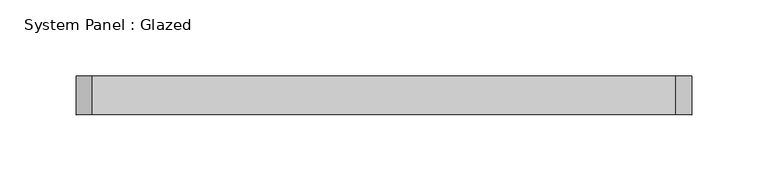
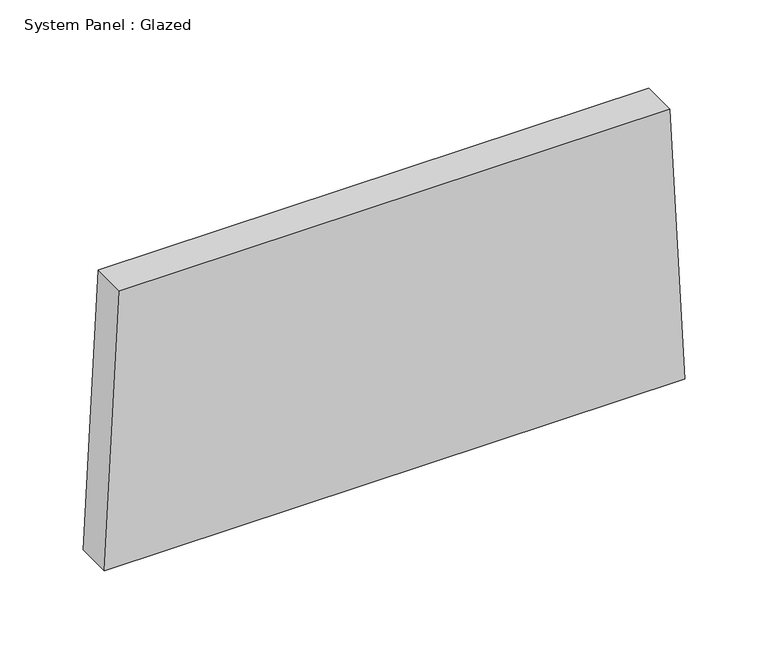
"""IFC4 building model written with IfcOpenShell, lengths in millimetres: plate geometry, System Panel : Glazed."""

import ifcopenshell
import ifcopenshell.guid

model = None  # the IFC model being written
_history = None  # IfcOwnerHistory: only IFC2X3 demands one
_inside = {}  # id of a spatial element -> (the spatial element, [elements in it])
_under = {}  # id of a project, library or spatial element -> (it, [spatial elements below it])
_declared = {}  # id of a project -> (the project, [libraries it declares])
_typed = {}  # id of a type object -> (the type object, [elements of that type])
_made_of = {}  # id of a material, layer set ... -> (it, [elements and type objects made of it])


def new_model(schema):
    """Start an empty IFC model of exactly this schema.

    Asked for "IFC4X3", IfcOpenShell would pick the latest addendum, in which some entities
    have other attributes; the version numbers below select the first issue.
    IFC2X3 requires an IfcOwnerHistory on every rooted entity: one is made here for all.
    """
    global model, _history
    if schema == "IFC4X3":
        model = ifcopenshell.file(schema_version=(4, 3, 0, 0))
    else:
        model = ifcopenshell.file(schema=schema)
    _inside.clear()
    _under.clear()
    _declared.clear()
    _typed.clear()
    _made_of.clear()
    _history = None
    if model.schema == "IFC2X3":
        org = make("IfcOrganization", Name="unknown")
        user = make(
            "IfcPersonAndOrganization",
            ThePerson=make("IfcPerson", FamilyName="unknown"),
            TheOrganization=org,
        )
        app = make(
            "IfcApplication",
            ApplicationDeveloper=org,
            Version="unknown",
            ApplicationFullName="unknown",
            ApplicationIdentifier="unknown",
        )
        _history = make(
            "IfcOwnerHistory",
            OwningUser=user,
            OwningApplication=app,
            ChangeAction="ADDED",
            CreationDate=0,
        )
    return model


def make(cls, **values):
    """One entity of the class cls with the attributes given. An attribute that is None is left unset."""
    return model.create_entity(
        cls, **{name: value for name, value in values.items() if value is not None}
    )


def rooted(cls, **values):
    """An entity with a GlobalId (a new one), such as an element, a storey or a relation."""
    return make(cls, GlobalId=ifcopenshell.guid.new(), OwnerHistory=_history, **values)


def si_unit(unit_type, name, prefix=None):
    """IfcSIUnit, for example si_unit("LENGTHUNIT", "METRE", prefix="MILLI")."""
    return make("IfcSIUnit", UnitType=unit_type, Prefix=prefix, Name=name)


def assignment(units):
    """IfcUnitAssignment: the units of a project."""
    return None if units is None else make("IfcUnitAssignment", Units=units)


def point(xyz):
    """IfcCartesianPoint."""
    return None if xyz is None else make("IfcCartesianPoint", Coordinates=xyz)


def direction(xyz):
    """IfcDirection."""
    return None if xyz is None else make("IfcDirection", DirectionRatios=xyz)


def frame(location, z_axis=None, x_axis=None):
    """IfcAxis2Placement3D, a coordinate frame: its origin and axes. An axis left out is left unset."""
    return make(
        "IfcAxis2Placement3D",
        Location=point(location),
        Axis=direction(z_axis),
        RefDirection=direction(x_axis),
    )


def origin():
    """The frame at (0, 0, 0) with its axes left unset."""
    return frame((0.0, 0.0, 0.0))


def place(relative_to, where):
    """IfcLocalPlacement: puts the frame where relative to a parent placement (None: the world)."""
    return make(
        "IfcLocalPlacement", PlacementRelTo=relative_to, RelativePlacement=where
    )


def context(
    kind, dimensions, precision=None, world=None, true_north=None, identifier=None
):
    """IfcGeometricRepresentationContext, for example the 3D "Model" context."""
    return make(
        "IfcGeometricRepresentationContext",
        ContextIdentifier=identifier,
        ContextType=kind,
        CoordinateSpaceDimension=dimensions,
        Precision=precision,
        WorldCoordinateSystem=world,
        TrueNorth=true_north,
    )


def project(units=None, contexts=None):
    """IfcProject with its units and contexts."""
    return rooted(
        "IfcProject",
        Name="project",
        RepresentationContexts=contexts,
        UnitsInContext=assignment(units),
    )


def spatial(cls, under=None, at=None, **own):
    """A site, building, storey or space (cls), placed at a placement, below another one or the project."""
    s = rooted(cls, ObjectPlacement=at, **own)
    if under is not None:
        _under.setdefault(under.id(), (under, []))[1].append(s)
    return s


def polyline(points):
    """IfcPolyline through the points."""
    return make("IfcPolyline", Points=[point(p) for p in points])


def outline(outer, holes=None, kind="AREA"):
    """IfcArbitraryClosedProfileDef: a profile drawn as a closed curve; with holes, ...WithVoids."""
    if holes is None:
        return make("IfcArbitraryClosedProfileDef", ProfileType=kind, OuterCurve=outer)
    return make(
        "IfcArbitraryProfileDefWithVoids",
        ProfileType=kind,
        OuterCurve=outer,
        InnerCurves=holes,
    )


def extrude(swept, where, along, depth):
    """IfcExtrudedAreaSolid: the profile swept, set in the frame where, extruded along a direction by depth."""
    return make(
        "IfcExtrudedAreaSolid",
        SweptArea=swept,
        Position=where,
        ExtrudedDirection=direction(along),
        Depth=depth,
    )


def shape(context_of_items, identifier, shape_type, items):
    """IfcShapeRepresentation: the items that make up one representation, for example the "Body"."""
    return make(
        "IfcShapeRepresentation",
        ContextOfItems=context_of_items,
        RepresentationIdentifier=identifier,
        RepresentationType=shape_type,
        Items=items,
    )


def source(mapping_origin, context_of_items, identifier, shape_type, items):
    """IfcRepresentationMap: a shape defined once, which mapped items show again and again."""
    return make(
        "IfcRepresentationMap",
        MappingOrigin=mapping_origin,
        MappedRepresentation=shape(context_of_items, identifier, shape_type, items),
    )


def transform(
    local_origin,
    x_axis=None,
    y_axis=None,
    z_axis=None,
    scale=None,
    scale2=None,
    scale3=None,
    uniform=True,
):
    """IfcCartesianTransformationOperator3D, or its non-uniform kind. x_axis, y_axis, z_axis: its Axis1, 2, 3."""
    if uniform:
        return make(
            "IfcCartesianTransformationOperator3D",
            Axis1=direction(x_axis),
            Axis2=direction(y_axis),
            LocalOrigin=point(local_origin),
            Scale=scale,
            Axis3=direction(z_axis),
        )
    return make(
        "IfcCartesianTransformationOperator3DnonUniform",
        Axis1=direction(x_axis),
        Axis2=direction(y_axis),
        LocalOrigin=point(local_origin),
        Scale=scale,
        Axis3=direction(z_axis),
        Scale2=scale2,
        Scale3=scale3,
    )


def mapped(mapping_source, mapping_target):
    """IfcMappedItem: shows the shape of a source again, moved by a transform."""
    return make(
        "IfcMappedItem", MappingSource=mapping_source, MappingTarget=mapping_target
    )


def made_of(thing, what):
    """Note that an element or type object is made of a material, layer set ...; save() writes the relation."""
    if what is not None:
        _made_of.setdefault(what.id(), (what, []))[1].append(thing)
    return thing


def element(
    cls,
    number,
    at=None,
    inside=None,
    cuts=None,
    type_object=None,
    material=None,
    context=None,
    identifier="Body",
    shape_type=None,
    held_by="IfcProductDefinitionShape",
    body=None,
    shapes=None,
    **own,
):
    """One element of the class cls, such as IfcWall. Its Tag is "e" and its number.

    at: its placement. inside: the storey or other place that contains it. cuts: it is an
    opening in that element (IfcRelVoidsElement). A single representation is given by context,
    identifier, shape_type and body (its items); several are given by shapes. held_by: the class
    of the entity that holds the representations. save() writes the other relations.
    """
    e = rooted(cls, Tag="e%d" % number, ObjectPlacement=at, **own)
    if body is not None:
        shapes = [shape(context, identifier, shape_type, body)]
    if shapes is not None:
        e.Representation = make(held_by, Representations=shapes)
    if inside is not None:
        _inside.setdefault(inside.id(), (inside, []))[1].append(e)
    if cuts is not None:
        rooted(
            "IfcRelVoidsElement", RelatingBuildingElement=cuts, RelatedOpeningElement=e
        )
    if type_object is not None:
        _typed.setdefault(type_object.id(), (type_object, []))[1].append(e)
    return made_of(e, material)


def aggregate(whole, parts):
    """IfcRelAggregates: a whole, such as a stair, and the parts it consists of."""
    return rooted("IfcRelAggregates", RelatingObject=whole, RelatedObjects=parts)


def save(model, path):
    """Write the relations noted so far, then the file.

    IfcRelAggregates (storeys below a building ...), IfcRelContainedInSpatialStructure (elements
    in a storey), IfcRelDefinesByType, IfcRelAssociatesMaterial and IfcRelDeclares: one each for
    every whole, place, type object, material and project.
    """
    for whole, parts in _under.values():
        aggregate(whole, parts)
    for where, things in _inside.values():
        rooted(
            "IfcRelContainedInSpatialStructure",
            RelatedElements=things,
            RelatingStructure=where,
        )
    for kind, things in _typed.values():
        rooted("IfcRelDefinesByType", RelatedObjects=things, RelatingType=kind)
    for what, things in _made_of.values():
        rooted("IfcRelAssociatesMaterial", RelatedObjects=things, RelatingMaterial=what)
    for by, libraries in _declared.values():
        rooted("IfcRelDeclares", RelatingContext=by, RelatedDefinitions=libraries)
    model.write(path)


def system_panel_glazed_1a760a1a(model_context):
    return source(origin(), model_context, "Body", "SweptSolid", [
        extrude(outline(polyline([(0.0, -201.8340871), (0.0, 201.8340871), (202.0797716, 191.3127145), (202.0797716, -191.3127145), (0.0, -201.8340871)])), frame((0.0, 19.05, 0.0), z_axis=(0.0, 1.0, 0.0), x_axis=(0.0, 0.0, 1.0)), (0.0, 0.0, 1.0), 25.4),
    ])


if __name__ == "__main__":
    model = new_model("IFC4")
    model_context = context("Model", 3, world=origin())
    ifc_project = project(units=[si_unit("LENGTHUNIT", "METRE", prefix="MILLI")], contexts=[model_context])
    site = spatial("IfcSite", under=ifc_project)
    building = spatial("IfcBuilding", under=site)
    placement = place(None, origin())
    system_panel_glazed_shape = system_panel_glazed_1a760a1a(model_context)
    element("IfcPlate", 1, ObjectType="System Panel : Glazed", at=placement, inside=building, context=model_context, shape_type="MappedRepresentation", body=[
        mapped(system_panel_glazed_shape, transform((0.0, 0.0, 0.0), x_axis=(1.0, 0.0, 0.0), y_axis=(0.0, 1.0, 0.0), z_axis=(0.0, 0.0, 1.0))),
    ])
    save(model, "model.ifc")
